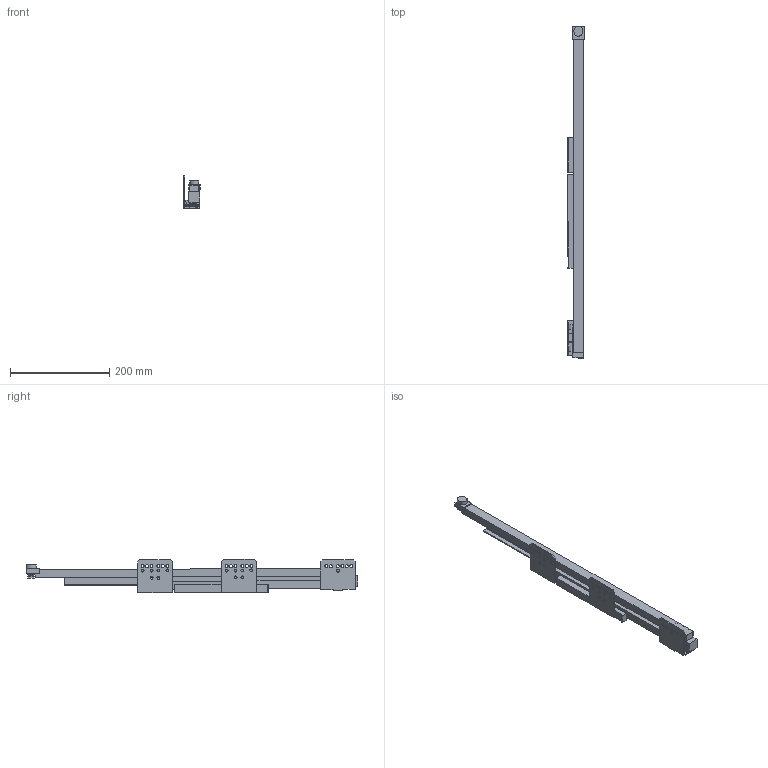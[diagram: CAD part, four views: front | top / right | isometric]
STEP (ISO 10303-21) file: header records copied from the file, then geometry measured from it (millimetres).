
FILE_DESCRIPTION (( 'STEP AP214' ), '1' );
FILE_NAME ('_IMOS Dynamic-XP VA 60kg NL650 LI Tipmatic.step', '2010-07-08T13:27:12', ( 'grass' ), ( '' ), 'SwSTEP 2.0', 'SolidWorks 2010', '' );
FILE_SCHEMA (( 'AUTOMOTIVE_DESIGN' ));
Length unit declared in the file: millimetre
Products named in the file (1): _IMOS Dynamic-XP VA 60kg NL650 LI Tipmatic
Bounding box: 33.14 x 668.02 x 66.67 mm (x, y, z)
Volume: 519240 mm3; surface area: 197342.4 mm2
Topology: 9 solids, 9 shells, 238 faces, 652 edges, 434 vertices
Faces by surface type: plane 167, cylinder 71
Entity records: 7758 total; most frequent: CARTESIAN_POINT 1325, ORIENTED_EDGE 1304, DIRECTION 1274, EDGE_CURVE 652, VECTOR 508, LINE 508, VERTEX_POINT 434, AXIS2_PLACEMENT_3D 383
